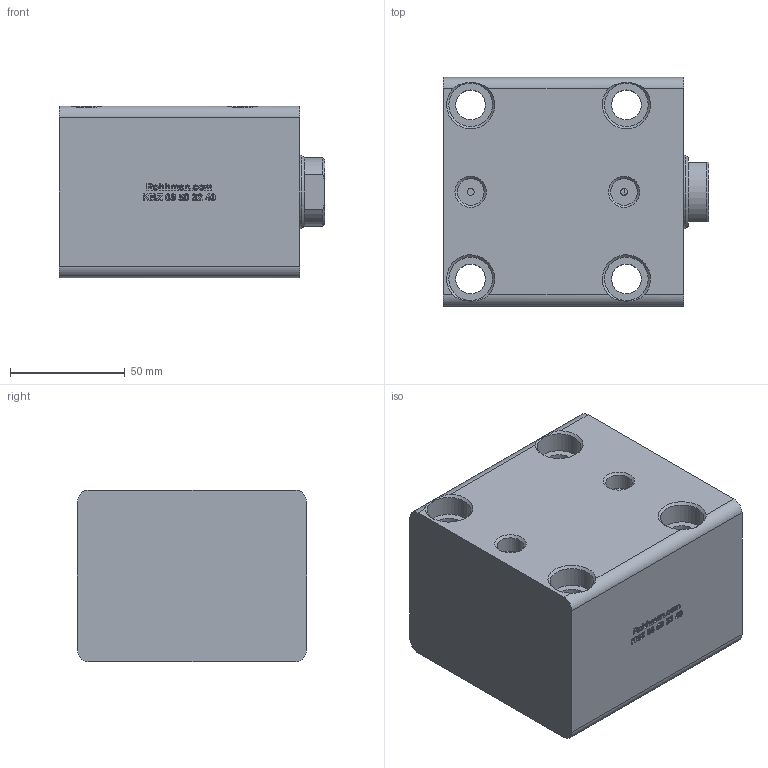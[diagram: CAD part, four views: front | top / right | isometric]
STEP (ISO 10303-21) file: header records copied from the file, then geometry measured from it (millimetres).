
FILE_DESCRIPTION(/* description */ (''),/* implementation_level */ '2;1');
FILE_NAME(/* name */ 'KBZ_08_50_32_40_WEB.step',/* time_stamp */ '2023-09-04T10:43:36+03:00',/* author */ (''),/* organization */ (''),/* preprocessor_version */ 'ST-DEVELOPER v20',/* originating_system */ 'Autodesk Translation Framework v12.9.0.99',/* authorisation */ '');
FILE_SCHEMA (('AUTOMOTIVE_DESIGN { 1 0 10303 214 3 1 1 }'));
Length unit declared in the file: millimetre
Products named in the file (6): KBZ_08_50_32_100_MONTAJ; KAPAK; KAPAK_1; GÖVDE; GÖVDE_1; Ø32 MİL
Assembly tree (5 placements, depth 3):
  KBZ_08_50_32_100_MONTAJ
    KAPAK
      KAPAK_1
    GÖVDE
      GÖVDE_1
    Ø32 MİL
Bounding box: 116 x 100 x 75 mm (x, y, z)
Volume: 654513.8 mm3; surface area: 96735.6 mm2
Topology: 3 solids, 3 shells, 575 faces, 1573 edges, 1042 vertices
Faces by surface type: bspline 340, plane 189, cylinder 28, cone 18
Full cylindrical faces by diameter (mm): 3 x4, 11.668 x2, 13 x4, 17.519 x1, 19 x4, 32 x1, 32.5 x1, 50 x1, 55 x2, 65 x2
Entity records: 21592 total; most frequent: CARTESIAN_POINT 9131, ORIENTED_EDGE 3146, EDGE_CURVE 1573, DIRECTION 1457, VERTEX_POINT 1042, LINE 793, VECTOR 793, B_SPLINE_CURVE_WITH_KNOTS 691
